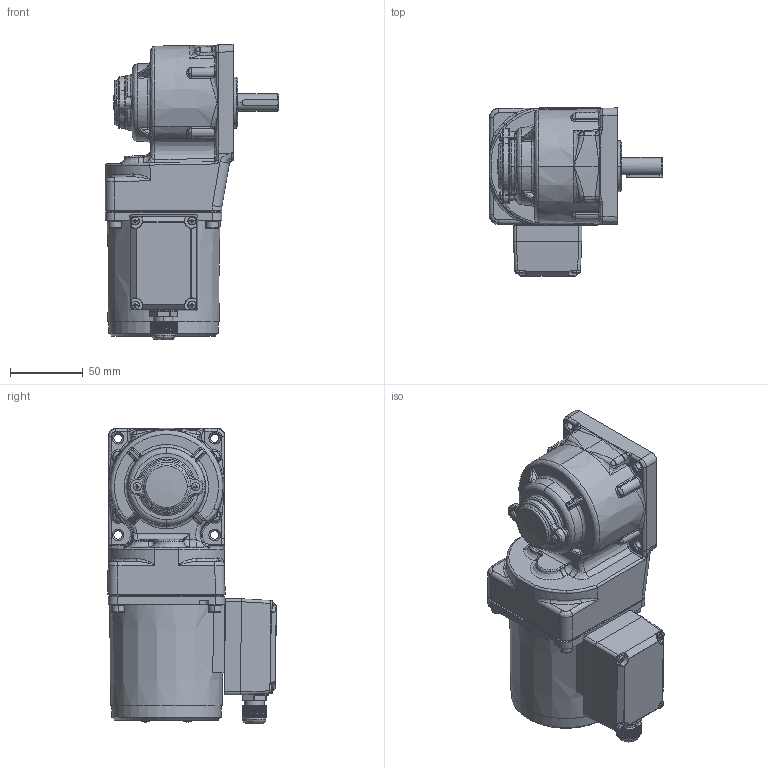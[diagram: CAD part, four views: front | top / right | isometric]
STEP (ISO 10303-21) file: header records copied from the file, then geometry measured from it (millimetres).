
FILE_DESCRIPTION (( 'STEP AP203' ), '1' );
FILE_NAME ('4RK25GN-CT(4GN3RT-180RT)ÐÂ.STEP', '2022-02-21T10:21:37', ( 'PC' ), ( 'Microsoft' ), 'SwSTEP 2.0', 'SolidWorks 2014', '' );
FILE_SCHEMA (( 'CONFIG_CONTROL_DESIGN' ));
Length unit declared in the file: millimetre
Products named in the file (17): M14SJQ^70TSJXHG(2)_80JXH; 80綴傷裔; cross recessed pan head screws gb_GB_CROSS_SCREWS_TYPE1 M3X6-6  H type-N; 80壔裔; hexagon socket head cap screws gb_GB_FASTENER_SCREWS_HSHCS M4X12-N; PRT0035^ASM0002_ASM_ASM_ASM0001_ASM_ASM_4IK25GN-CT-4GN3-180RC_ASM_ASM_4ik25gn-ct-4gn3-180rt_asm(2)_8; 4RK25GN-CT(4GN3RT-180RT)陔; 70TSJXHG(2)^80JXH; 80眻褒眊裔; TSJXH^70TSJXHG(2)_80JXH; 80妗陑怀堤粣; zd-4gn1000rc-504-001-20211209（PROE导出的版本）; M3_1; 80ZNGB_1; 80JXH; M3^70TSJXHG(2)_80JXH; 80TSJXHJK
Assembly tree (27 placements, depth 4):
  4RK25GN-CT(4GN3RT-180RT)陔
    80眻褒眊裔
    zd-4gn1000rc-504-001-20211209（PROE导出的版本）
    80妗陑怀堤粣
    80壔裔
    80綴傷裔
    hexagon socket head cap screws gb_GB_FASTENER_SCREWS_HSHCS M4X12-N  x4
    cross recessed pan head screws gb_GB_CROSS_SCREWS_TYPE1 M3X6-6  H type-N  x2
    PRT0035^ASM0002_ASM_ASM_ASM0001_ASM_ASM_4IK25GN-CT-4GN3-180RC_ASM_ASM_4ik25gn-ct-4gn3-180rt_asm(2)_8  x4
    80JXH
      70TSJXHG(2)^80JXH
        TSJXH^70TSJXHG(2)_80JXH
        M14SJQ^70TSJXHG(2)_80JXH
        M3^70TSJXHG(2)_80JXH  x4
    80ZNGB_1
    80TSJXHJK
    M3_1  x2
Bounding box: 119 x 115.74 x 202.79 mm (x, y, z)
Volume: 807800.8 mm3; surface area: 173774.1 mm2
Topology: 25 solids, 27 shells, 3301 faces, 7563 edges, 4281 vertices
Faces by surface type: cone 1255, cylinder 999, plane 539, bspline 498, torus 8, sphere 2
Entity records: 92120 total; most frequent: CARTESIAN_POINT 50064, ORIENTED_EDGE 9068, DIRECTION 7318, EDGE_CURVE 4534, AXIS2_PLACEMENT_3D 2862, VERTEX_POINT 2705, EDGE_LOOP 2043, ADVANCED_FACE 1934
